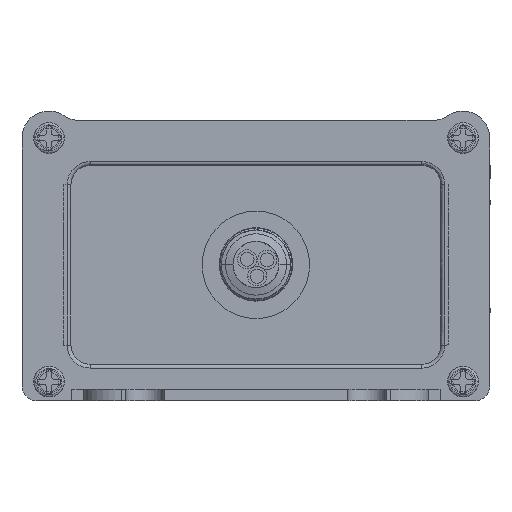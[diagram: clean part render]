
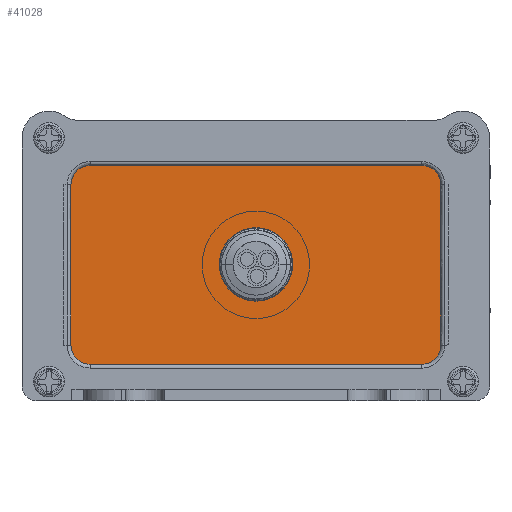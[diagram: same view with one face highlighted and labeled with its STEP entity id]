
A CAD part, left-side view. The second image highlights one B-rep face of the part: STEP entity #41028.
In plain terms, the highlighted free-form (B-spline) face has degree [3, 3] with [4, 4] control points.
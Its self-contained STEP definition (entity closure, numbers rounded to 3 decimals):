
#10425=CARTESIAN_POINT('',(9.05,0.,
17.743));
#10426=DIRECTION('',(1.,0.,0.));
#10427=DIRECTION('',(0.,1.,0.));
#10428=AXIS2_PLACEMENT_3D('',#10425,#10426,#10427);
#10430=DIRECTION('',(0.,0.,-1.));
#10431=VECTOR('',#10430,20.921);
#10432=CARTESIAN_POINT('',(9.05,24.113,28.203));
#10433=LINE('',#10432,#10431);
#10434=CARTESIAN_POINT('',(9.05,21.613,28.203));
#10435=DIRECTION('',(-1.,0.,0.));
#10436=DIRECTION('',(0.,0.,1.));
#10437=AXIS2_PLACEMENT_3D('',#10434,#10435,#10436);
#10439=DIRECTION('',(0.,1.,0.));
#10440=VECTOR('',#10439,43.225);
#10441=CARTESIAN_POINT('',(9.05,-21.613,
30.703));
#10442=LINE('',#10441,#10440);
#10443=CARTESIAN_POINT('',(9.05,-21.613,
28.203));
#10444=DIRECTION('',(-1.,0.,0.));
#10445=DIRECTION('',(0.,-1.,0.));
#10446=AXIS2_PLACEMENT_3D('',#10443,#10444,#10445);
#10448=DIRECTION('',(0.,0.,1.));
#10449=VECTOR('',#10448,20.921);
#10450=CARTESIAN_POINT('',(9.05,-24.113,
7.282));
#10451=LINE('',#10450,#10449);
#10452=CARTESIAN_POINT('',(9.05,-21.613,
7.282));
#10453=DIRECTION('',(-1.,0.,0.));
#10454=DIRECTION('',(0.,0.,-1.));
#10455=AXIS2_PLACEMENT_3D('',#10452,#10453,#10454);
#10457=DIRECTION('',(0.,-1.,0.));
#10458=VECTOR('',#10457,43.225);
#10459=CARTESIAN_POINT('',(9.05,21.613,4.782));
#10460=LINE('',#10459,#10458);
#10461=CARTESIAN_POINT('',(9.05,21.613,7.282));
#10462=DIRECTION('',(-1.,0.,0.));
#10463=DIRECTION('',(0.,1.,0.));
#10464=AXIS2_PLACEMENT_3D('',#10461,#10462,#10463);
#10466=CARTESIAN_POINT('',(9.05,0.,
17.743));
#10467=DIRECTION('',(1.,0.,0.));
#10468=DIRECTION('',(0.,-1.,0.));
#10469=AXIS2_PLACEMENT_3D('',#10466,#10467,#10468);
#22888=CARTESIAN_POINT('',(9.05,21.613,30.703));
#22889=VERTEX_POINT('',#22888);
#22890=CARTESIAN_POINT('',(9.05,-21.613,
30.703));
#22891=VERTEX_POINT('',#22890);
#22892=CARTESIAN_POINT('',(9.05,24.113,28.203));
#22893=VERTEX_POINT('',#22892);
#22894=CARTESIAN_POINT('',(9.05,24.113,7.282));
#22895=VERTEX_POINT('',#22894);
#22896=CARTESIAN_POINT('',(9.05,21.613,4.782));
#22897=VERTEX_POINT('',#22896);
#22898=CARTESIAN_POINT('',(9.05,-21.613,
4.782));
#22899=VERTEX_POINT('',#22898);
#22900=CARTESIAN_POINT('',(9.05,-24.113,
7.282));
#22901=VERTEX_POINT('',#22900);
#22902=CARTESIAN_POINT('',(9.05,-24.113,
28.203));
#22903=VERTEX_POINT('',#22902);
#22904=CARTESIAN_POINT('',(9.05,-4.5,17.743));
#22905=CARTESIAN_POINT('',(9.05,4.5,17.743));
#22906=VERTEX_POINT('',#22904);
#22907=VERTEX_POINT('',#22905);
#40989=CARTESIAN_POINT('',(9.05,25.077,4.264));
#40990=CARTESIAN_POINT('',(9.05,25.077,13.25));
#40991=CARTESIAN_POINT('',(9.05,25.077,22.236));
#40992=CARTESIAN_POINT('',(9.05,25.077,31.222));
#40993=CARTESIAN_POINT('',(9.05,8.359,4.264));
#40994=CARTESIAN_POINT('',(9.05,8.359,13.25));
#40995=CARTESIAN_POINT('',(9.05,8.359,22.236));
#40996=CARTESIAN_POINT('',(9.05,8.359,31.222));
#40997=CARTESIAN_POINT('',(9.05,-8.359,
4.264));
#40998=CARTESIAN_POINT('',(9.05,-8.359,
13.25));
#40999=CARTESIAN_POINT('',(9.05,-8.359,
22.236));
#41000=CARTESIAN_POINT('',(9.05,-8.359,
31.222));
#41001=CARTESIAN_POINT('',(9.05,-25.077,
4.264));
#41002=CARTESIAN_POINT('',(9.05,-25.077,
13.25));
#41003=CARTESIAN_POINT('',(9.05,-25.077,
22.236));
#41004=CARTESIAN_POINT('',(9.05,-25.077,
31.222));
#41005=B_SPLINE_SURFACE_WITH_KNOTS('',3,3,((#40989,#40990,#40991,#40992),
(#40993,#40994,#40995,#40996),(#40997,#40998,#40999,#41000),(#41001,#41002,
#41003,#41004)),.UNSPECIFIED.,.F.,.F.,.F.,(4,4),(4,4),(-25.077,
25.077),(-13.479,13.479),.UNSPECIFIED.);
#41007=ORIENTED_EDGE('',*,*,#41006,.F.);
#41009=ORIENTED_EDGE('',*,*,#41008,.F.);
#41011=ORIENTED_EDGE('',*,*,#41010,.F.);
#41013=ORIENTED_EDGE('',*,*,#41012,.F.);
#41015=ORIENTED_EDGE('',*,*,#41014,.F.);
#41017=ORIENTED_EDGE('',*,*,#41016,.F.);
#41019=ORIENTED_EDGE('',*,*,#41018,.F.);
#41021=ORIENTED_EDGE('',*,*,#41020,.F.);
#41022=EDGE_LOOP('',(#41007,#41009,#41011,#41013,#41015,#41017,#41019,#41021));
#41023=FACE_OUTER_BOUND('',#41022,.F.);
#41024=ORIENTED_EDGE('',*,*,#40969,.F.);
#41025=ORIENTED_EDGE('',*,*,#40984,.F.);
#41026=EDGE_LOOP('',(#41024,#41025));
#41027=FACE_BOUND('',#41026,.F.);
#41028=ADVANCED_FACE('',(#41023,#41027),#41005,.T.);
#10429=CIRCLE('',#10428,4.5);
#10438=CIRCLE('',#10437,2.5);
#10447=CIRCLE('',#10446,2.5);
#10456=CIRCLE('',#10455,2.5);
#10465=CIRCLE('',#10464,2.5);
#10470=CIRCLE('',#10469,4.5);
#40969=EDGE_CURVE('',#22906,#22907,#10470,.T.);
#40984=EDGE_CURVE('',#22907,#22906,#10429,.T.);
#41006=EDGE_CURVE('',#22893,#22895,#10433,.T.);
#41008=EDGE_CURVE('',#22889,#22893,#10438,.T.);
#41010=EDGE_CURVE('',#22891,#22889,#10442,.T.);
#41012=EDGE_CURVE('',#22903,#22891,#10447,.T.);
#41014=EDGE_CURVE('',#22901,#22903,#10451,.T.);
#41016=EDGE_CURVE('',#22899,#22901,#10456,.T.);
#41018=EDGE_CURVE('',#22897,#22899,#10460,.T.);
#41020=EDGE_CURVE('',#22895,#22897,#10465,.T.);
